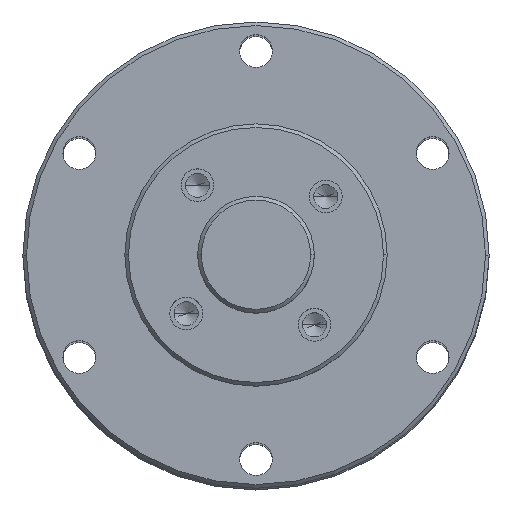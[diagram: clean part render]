
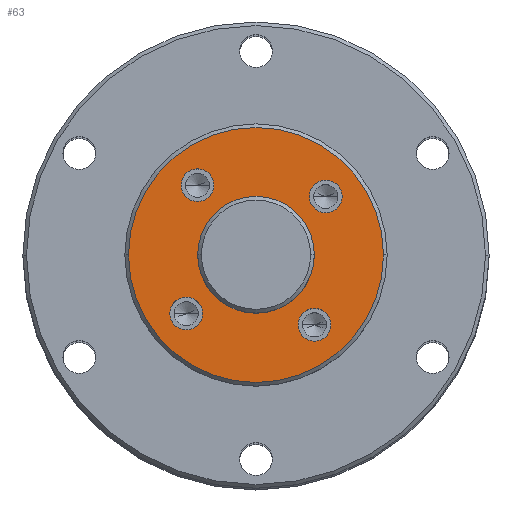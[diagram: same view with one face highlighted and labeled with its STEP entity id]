
A CAD part, top view. The second image highlights one B-rep face of the part: STEP entity #63.
In plain terms, the highlighted planar face has unit normal (0, 0, 1).
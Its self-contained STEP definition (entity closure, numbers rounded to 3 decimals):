
#15 = VERTEX_POINT ( 'NONE', #4804 ) ;
#25 = DIRECTION ( 'NONE',  ( 0., 0., 1. ) ) ;
#63 = ADVANCED_FACE ( 'NONE', ( #486, #3230, #4034, #563, #1297, #2516 ), #3011, .F. ) ;
#68 = ORIENTED_EDGE ( 'NONE', *, *, #1555, .F. ) ;
#185 = DIRECTION ( 'NONE',  ( 1., 0., 0. ) ) ;
#212 = EDGE_LOOP ( 'NONE', ( #68, #4158 ) ) ;
#337 = AXIS2_PLACEMENT_3D ( 'NONE', #1784, #4839, #2208 ) ;
#345 = ORIENTED_EDGE ( 'NONE', *, *, #5106, .F. ) ;
#426 = CIRCLE ( 'NONE', #3507, 2.25 ) ;
#486 = FACE_BOUND ( 'NONE', #2016, .T. ) ;
#555 = CARTESIAN_POINT ( 'NONE',  ( 0., 0., 0. ) ) ;
#559 = CARTESIAN_POINT ( 'NONE',  ( 8.035, -9.576, 0. ) ) ;
#563 = FACE_BOUND ( 'NONE', #2160, .T. ) ;
#681 = DIRECTION ( 'NONE',  ( 0., 0., 1. ) ) ;
#716 = CIRCLE ( 'NONE', #3446, 2.25 ) ;
#721 = ORIENTED_EDGE ( 'NONE', *, *, #4948, .F. ) ;
#738 = DIRECTION ( 'NONE',  ( 0., 0., 1. ) ) ;
#746 = EDGE_CURVE ( 'NONE', #1450, #2437, #5367, .T. ) ;
#851 = CIRCLE ( 'NONE', #4572, 8. ) ;
#864 = CARTESIAN_POINT ( 'NONE',  ( -8.035, 9.576, 0. ) ) ;
#872 = CARTESIAN_POINT ( 'NONE',  ( -7.326, -8.035, 0. ) ) ;
#976 = EDGE_CURVE ( 'NONE', #1668, #4942, #716, .T. ) ;
#990 = DIRECTION ( 'NONE',  ( -1., 0., 0. ) ) ;
#1001 = DIRECTION ( 'NONE',  ( 1., 0., 0. ) ) ;
#1222 = DIRECTION ( 'NONE',  ( 0., 0., -1. ) ) ;
#1231 = AXIS2_PLACEMENT_3D ( 'NONE', #4431, #1845, #4896 ) ;
#1273 = DIRECTION ( 'NONE',  ( -1., 0., 0. ) ) ;
#1293 = VERTEX_POINT ( 'NONE', #5320 ) ;
#1294 = DIRECTION ( 'NONE',  ( 1., 0., 0. ) ) ;
#1297 = FACE_BOUND ( 'NONE', #1744, .T. ) ;
#1299 = EDGE_CURVE ( 'NONE', #3402, #1293, #2922, .T. ) ;
#1308 = VERTEX_POINT ( 'NONE', #1384 ) ;
#1346 = EDGE_CURVE ( 'NONE', #1308, #3522, #2138, .T. ) ;
#1382 = CARTESIAN_POINT ( 'NONE',  ( -9.576, -8.035, 0. ) ) ;
#1384 = CARTESIAN_POINT ( 'NONE',  ( 11.826, 8.035, 0. ) ) ;
#1427 = DIRECTION ( 'NONE',  ( 0., 0., 1. ) ) ;
#1439 = EDGE_LOOP ( 'NONE', ( #4808, #345 ) ) ;
#1450 = VERTEX_POINT ( 'NONE', #3374 ) ;
#1492 = AXIS2_PLACEMENT_3D ( 'NONE', #5286, #1222, #1273 ) ;
#1555 = EDGE_CURVE ( 'NONE', #3063, #2408, #5429, .T. ) ;
#1597 = EDGE_CURVE ( 'NONE', #2395, #15, #4885, .T. ) ;
#1609 = CARTESIAN_POINT ( 'NONE',  ( -11.826, -8.035, 0. ) ) ;
#1653 = AXIS2_PLACEMENT_3D ( 'NONE', #3273, #681, #3702 ) ;
#1668 = VERTEX_POINT ( 'NONE', #2311 ) ;
#1744 = EDGE_LOOP ( 'NONE', ( #3255, #721 ) ) ;
#1784 = CARTESIAN_POINT ( 'NONE',  ( 0., 0., 0. ) ) ;
#1843 = DIRECTION ( 'NONE',  ( 1., 0., 0. ) ) ;
#1845 = DIRECTION ( 'NONE',  ( 0., 0., 1. ) ) ;
#1984 = AXIS2_PLACEMENT_3D ( 'NONE', #5468, #2808, #185 ) ;
#1992 = EDGE_LOOP ( 'NONE', ( #4613, #2465 ) ) ;
#2016 = EDGE_LOOP ( 'NONE', ( #4028, #3457 ) ) ;
#2031 = CARTESIAN_POINT ( 'NONE',  ( 0., 0., 0. ) ) ;
#2138 = CIRCLE ( 'NONE', #3178, 2.25 ) ;
#2160 = EDGE_LOOP ( 'NONE', ( #2535, #2242 ) ) ;
#2208 = DIRECTION ( 'NONE',  ( -1., 0., 0. ) ) ;
#2232 = EDGE_CURVE ( 'NONE', #3522, #1308, #2610, .T. ) ;
#2242 = ORIENTED_EDGE ( 'NONE', *, *, #2232, .F. ) ;
#2261 = CARTESIAN_POINT ( 'NONE',  ( -10.285, 9.576, 0. ) ) ;
#2311 = CARTESIAN_POINT ( 'NONE',  ( -5.785, 9.576, 0. ) ) ;
#2313 = AXIS2_PLACEMENT_3D ( 'NONE', #3322, #738, #3759 ) ;
#2348 = CIRCLE ( 'NONE', #1653, 2.25 ) ;
#2395 = VERTEX_POINT ( 'NONE', #2885 ) ;
#2408 = VERTEX_POINT ( 'NONE', #1609 ) ;
#2437 = VERTEX_POINT ( 'NONE', #5142 ) ;
#2446 = DIRECTION ( 'NONE',  ( 1., 0., 0. ) ) ;
#2465 = ORIENTED_EDGE ( 'NONE', *, *, #4842, .T. ) ;
#2516 = FACE_BOUND ( 'NONE', #212, .T. ) ;
#2535 = ORIENTED_EDGE ( 'NONE', *, *, #1346, .F. ) ;
#2610 = CIRCLE ( 'NONE', #1984, 2.25 ) ;
#2638 = CARTESIAN_POINT ( 'NONE',  ( 0., 0., 0. ) ) ;
#2808 = DIRECTION ( 'NONE',  ( 0., 0., 1. ) ) ;
#2885 = CARTESIAN_POINT ( 'NONE',  ( -17.5, 0., 0. ) ) ;
#2922 = CIRCLE ( 'NONE', #1231, 2.25 ) ;
#3011 = PLANE ( 'NONE',  #1492 ) ;
#3063 = VERTEX_POINT ( 'NONE', #872 ) ;
#3105 = DIRECTION ( 'NONE',  ( 1., 0., 0. ) ) ;
#3172 = CIRCLE ( 'NONE', #337, 17.5 ) ;
#3178 = AXIS2_PLACEMENT_3D ( 'NONE', #4022, #1427, #4477 ) ;
#3230 = FACE_OUTER_BOUND ( 'NONE', #1992, .T. ) ;
#3255 = ORIENTED_EDGE ( 'NONE', *, *, #1299, .F. ) ;
#3273 = CARTESIAN_POINT ( 'NONE',  ( -8.035, 9.576, 0. ) ) ;
#3322 = CARTESIAN_POINT ( 'NONE',  ( -9.576, -8.035, 0. ) ) ;
#3374 = CARTESIAN_POINT ( 'NONE',  ( -8., 0., 0. ) ) ;
#3402 = VERTEX_POINT ( 'NONE', #3761 ) ;
#3446 = AXIS2_PLACEMENT_3D ( 'NONE', #864, #3897, #1294 ) ;
#3457 = ORIENTED_EDGE ( 'NONE', *, *, #746, .F. ) ;
#3507 = AXIS2_PLACEMENT_3D ( 'NONE', #559, #3587, #1001 ) ;
#3522 = VERTEX_POINT ( 'NONE', #5195 ) ;
#3584 = DIRECTION ( 'NONE',  ( 0., 0., 1. ) ) ;
#3587 = DIRECTION ( 'NONE',  ( 0., 0., 1. ) ) ;
#3702 = DIRECTION ( 'NONE',  ( 1., 0., 0. ) ) ;
#3759 = DIRECTION ( 'NONE',  ( 1., 0., 0. ) ) ;
#3761 = CARTESIAN_POINT ( 'NONE',  ( 10.285, -9.576, 0. ) ) ;
#3897 = DIRECTION ( 'NONE',  ( 0., 0., 1. ) ) ;
#4022 = CARTESIAN_POINT ( 'NONE',  ( 9.576, 8.035, 0. ) ) ;
#4028 = ORIENTED_EDGE ( 'NONE', *, *, #4046, .F. ) ;
#4034 = FACE_BOUND ( 'NONE', #1439, .T. ) ;
#4046 = EDGE_CURVE ( 'NONE', #2437, #1450, #851, .T. ) ;
#4158 = ORIENTED_EDGE ( 'NONE', *, *, #4271, .F. ) ;
#4271 = EDGE_CURVE ( 'NONE', #2408, #3063, #4461, .T. ) ;
#4429 = DIRECTION ( 'NONE',  ( 0., 0., 1. ) ) ;
#4431 = CARTESIAN_POINT ( 'NONE',  ( 8.035, -9.576, 0. ) ) ;
#4461 = CIRCLE ( 'NONE', #2313, 2.25 ) ;
#4477 = DIRECTION ( 'NONE',  ( 1., 0., 0. ) ) ;
#4537 = AXIS2_PLACEMENT_3D ( 'NONE', #555, #3584, #990 ) ;
#4572 = AXIS2_PLACEMENT_3D ( 'NONE', #2031, #5103, #2446 ) ;
#4573 = AXIS2_PLACEMENT_3D ( 'NONE', #1382, #4429, #1843 ) ;
#4613 = ORIENTED_EDGE ( 'NONE', *, *, #1597, .T. ) ;
#4804 = CARTESIAN_POINT ( 'NONE',  ( 17.5, 0., 0. ) ) ;
#4808 = ORIENTED_EDGE ( 'NONE', *, *, #976, .F. ) ;
#4839 = DIRECTION ( 'NONE',  ( 0., 0., 1. ) ) ;
#4842 = EDGE_CURVE ( 'NONE', #15, #2395, #3172, .T. ) ;
#4885 = CIRCLE ( 'NONE', #4537, 17.5 ) ;
#4896 = DIRECTION ( 'NONE',  ( 1., 0., 0. ) ) ;
#4942 = VERTEX_POINT ( 'NONE', #2261 ) ;
#4948 = EDGE_CURVE ( 'NONE', #1293, #3402, #426, .T. ) ;
#5103 = DIRECTION ( 'NONE',  ( 0., 0., 1. ) ) ;
#5106 = EDGE_CURVE ( 'NONE', #4942, #1668, #2348, .T. ) ;
#5133 = AXIS2_PLACEMENT_3D ( 'NONE', #2638, #25, #3105 ) ;
#5142 = CARTESIAN_POINT ( 'NONE',  ( 8., 0., 0. ) ) ;
#5195 = CARTESIAN_POINT ( 'NONE',  ( 7.326, 8.035, 0. ) ) ;
#5286 = CARTESIAN_POINT ( 'NONE',  ( 0., 18., 0. ) ) ;
#5320 = CARTESIAN_POINT ( 'NONE',  ( 5.785, -9.576, 0. ) ) ;
#5367 = CIRCLE ( 'NONE', #5133, 8. ) ;
#5429 = CIRCLE ( 'NONE', #4573, 2.25 ) ;
#5468 = CARTESIAN_POINT ( 'NONE',  ( 9.576, 8.035, 0. ) ) ;
